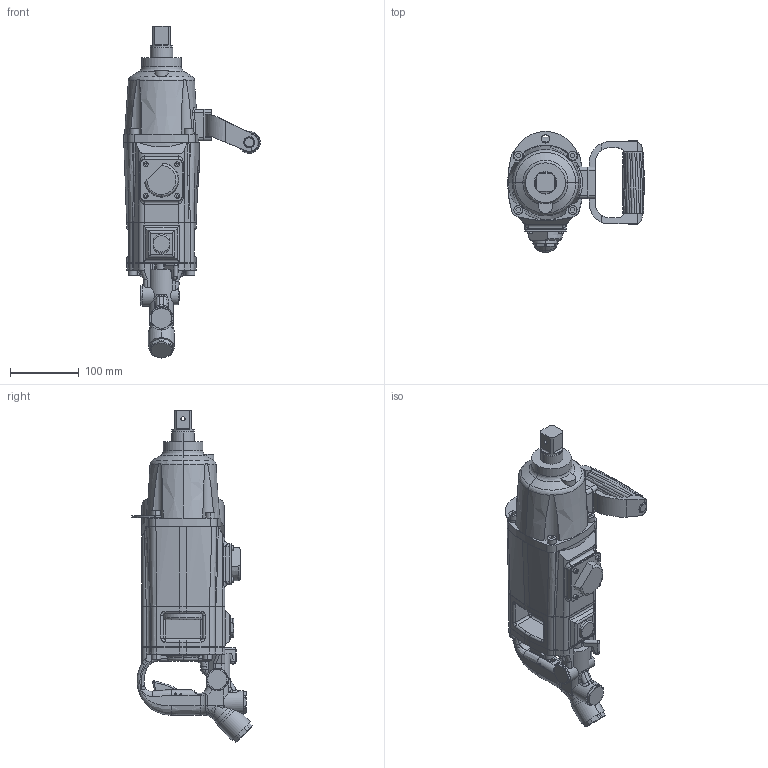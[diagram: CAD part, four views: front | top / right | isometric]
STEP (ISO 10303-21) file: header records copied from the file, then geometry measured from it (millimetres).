
FILE_DESCRIPTION (( 'STEP AP214' ), '1' );
FILE_NAME ('UXR-T2400S(IN).STEP', '2006-09-06T05:49:44', ( '' ), ( '' ), 'SwSTEP 2.0', 'SolidWorks 2004073', '' );
FILE_SCHEMA (( 'AUTOMOTIVE_DESIGN' ));
Length unit declared in the file: millimetre
Products named in the file (8): 1760105_UXR-T2400S(IN)_蹬怮椔; 1650260_UXR-T2400S(OUT)_蹬怮椔; 0851071_蹬怮椔; 1032120_UXR-T2400S(OUT)_蹬怮椔; 1760255_UXR-T2400S(OUT)_蹬怮椔; 1754395_UXR-T2400S(OUT)_蹬怮椔; 1763195_UXR-T2400S(OUT)_蹬怮椔; UXR-T2400S(IN)
Assembly tree (7 placements, depth 2):
  UXR-T2400S(IN)
    1650260_UXR-T2400S(OUT)_蹬怮椔
    1760105_UXR-T2400S(IN)_蹬怮椔
    1032120_UXR-T2400S(OUT)_蹬怮椔
    1760255_UXR-T2400S(OUT)_蹬怮椔
    1763195_UXR-T2400S(OUT)_蹬怮椔
    1754395_UXR-T2400S(OUT)_蹬怮椔
    0851071_蹬怮椔
Bounding box: 199.14 x 176.1 x 484.44 mm (x, y, z)
Volume: 3416941.5 mm3; surface area: 304195.8 mm2
Topology: 7 solids, 7 shells, 1175 faces, 3128 edges, 2013 vertices
Faces by surface type: plane 447, cylinder 351, bspline 289, torus 52, cone 24, sphere 12
Entity records: 102684 total; most frequent: CARTESIAN_POINT 71300, ORIENTED_EDGE 6220, DIRECTION 4490, EDGE_CURVE 3110, VERTEX_POINT 2010, AXIS2_PLACEMENT_3D 1588, LINE 1314, VECTOR 1314
